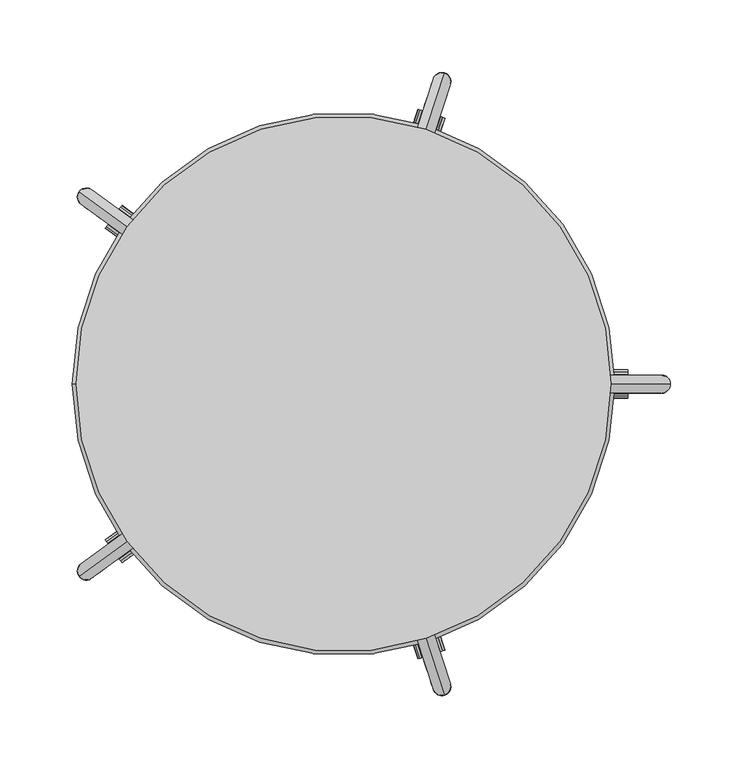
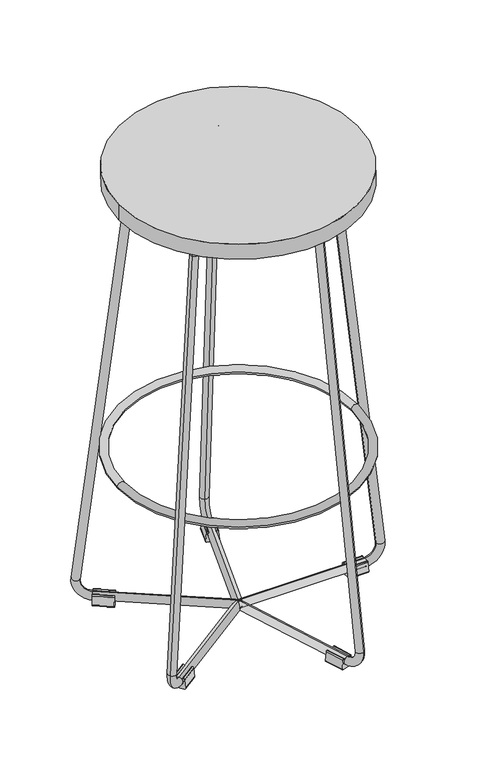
"""IFC4 building model written with IfcOpenShell, lengths in millimetres: furniture geometry, AsteriskR185 : AsteriskR185."""

from ifc_helpers import new_model, si_unit, point, frame, frame_2d, origin, origin_2d, place, context, project, spatial, polyline, circle_curve, ellipse_curve, trimmed, segment, composite_curve, outline, extrude, source, transform, mapped, element, save
from ifc_brep_helpers import plane_surface, cylinder_surface, revolved_surface, advanced_brep


def furniture_04dd6bc4(model_context):
    return source(origin(), model_context, "Body", "SolidModel", [
        extrude(outline(composite_curve([segment(polyline([(62.2017814, -106.4906141), (37.2365478, -114.6023102), (31.0562079, -95.5811799), (56.0214415, -87.4694838)]), True, "CONTINUOUS"), segment(trimmed(circle_curve(frame_2d((59.1116114, -96.9800489)), 10.0), [point((56.0214415, -87.4694838))], [point((68.6221766, -93.889879))], False, "CARTESIAN"), True, "CONTINUOUS"), segment(trimmed(circle_curve(frame_2d((59.1116114, -96.9800489)), 10.0), [point((68.6221766, -93.889879))], [point((62.2017814, -106.4906141))], False, "CARTESIAN"), True, "CONTINUOUS")], self_intersect=False), holes=[composite_curve([segment(trimmed(circle_curve(frame_2d((59.1116114, -96.9800489)), 2.5), [point((58.3390689, -94.6024077))], [point((59.8841539, -99.3576902))], True, "CARTESIAN"), True, "CONTINUOUS"), segment(trimmed(circle_curve(frame_2d((59.1116114, -96.9800489)), 2.5), [point((59.8841539, -99.3576902))], [point((58.3390689, -94.6024077))], True, "CARTESIAN"), True, "CONTINUOUS")], self_intersect=False)]), frame((0.0, 0.0, 703.0), z_axis=(0.0, 0.0, 1.0), x_axis=(1.0, 0.0, 0.0)), (0.0, 0.0, 1.0), 2.0),
        extrude(outline(composite_curve([segment(trimmed(circle_curve(frame_2d((0.0, -1.5)), 1.5), [point((0.1752619, -0.010274))], [point((1.5, -1.5))], False, "CARTESIAN"), True, "CONTINUOUS"), segment(trimmed(circle_curve(frame_2d((-0.121686, -1.5)), 1.621686), [point((1.5, -1.5))], [point((-0.7291803, -3.0036011))], False, "CARTESIAN"), True, "CONTINUOUS"), segment(trimmed(circle_curve(frame_2d((-4.1625955, -8.1661256)), 6.2), [point((-0.7291803, -3.0036011))], [point((-10.3625955, -8.1661256))], True, "CARTESIAN"), True, "CONTINUOUS"), segment(trimmed(circle_curve(frame_2d((-4.1625955, -8.1661256)), 6.2), [point((-10.3625955, -8.1661256))], [point((-0.7291803, -13.3286502))], True, "CARTESIAN"), True, "CONTINUOUS"), segment(trimmed(circle_curve(frame_2d((-0.121686, -14.8322512)), 1.621686), [point((-0.7291803, -13.3286502))], [point((1.5, -14.8322512))], False, "CARTESIAN"), True, "CONTINUOUS"), segment(trimmed(circle_curve(frame_2d((0.0, -14.8322512)), 1.5), [point((1.5, -14.8322512))], [point((0.1752619, -16.3219772))], False, "CARTESIAN"), True, "CONTINUOUS"), segment(polyline([(0.1752619, -16.3219772), (-13.8247381, -17.969036)]), True, "CONTINUOUS"), segment(trimmed(circle_curve(frame_2d((-14.0, -16.4793101)), 1.5), [point((-13.8247381, -17.969036))], [point((-15.5, -16.4793101))], False, "CARTESIAN"), True, "CONTINUOUS"), segment(polyline([(-15.5, -16.4793101), (-15.5, 0.1470588)]), True, "CONTINUOUS"), segment(trimmed(circle_curve(frame_2d((-14.0, 0.1470588)), 1.5), [point((-15.5, 0.1470588))], [point((-13.8247381, 1.6367847))], False, "CARTESIAN"), True, "CONTINUOUS"), segment(polyline([(-13.8247381, 1.6367847), (0.1752619, -0.010274)]), True, "CONTINUOUS")], self_intersect=False)), frame((68.4882864, -184.3591339, 15.5), z_axis=(-0.3090169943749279, 0.95105651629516, 0.0), x_axis=(0.0, 0.0, 1.0)), (0.0, 0.0, 1.0), 30.0),
        advanced_brep(
        [(0.0, 0.0, 692.4625955), (0.0, 0.0, 704.8625955), (37.9725027, -116.8673464, 692.4625955), (37.9725027, -116.8673464, 704.8625955), (47.1403393, -145.083046, 678.4058295), (43.3335311, -133.3668951, 676.9916093), (66.0374455, -203.242359, 36.9916093), (69.8442537, -214.9585099, 38.4058295), (0.0, 0.0, 17.5374045), (0.0, 0.0, 5.1374045), (60.6764172, -186.7428102, 5.1374045), (60.6764172, -186.7428102, 17.5374045)],
        [
            (0, 1, circle_curve(frame((0.0, 0.0, 698.6625955), z_axis=(-0.3090169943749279, 0.95105651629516, 0.0), x_axis=(0.0, 0.0, 1.0)), 6.2)),
            (1, 0, circle_curve(frame((0.0, 0.0, 698.6625955), z_axis=(-0.3090169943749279, 0.95105651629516, 0.0), x_axis=(0.0, 0.0, 1.0)), 6.2)),
            (0, 2),
            (2, 3, circle_curve(frame((37.9725027, -116.8673464, 698.6625955), z_axis=(-0.3090169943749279, 0.95105651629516, 0.0), x_axis=(0.0, 0.0, 1.0)), 6.2)),
            (3, 1),
            (3, 2, circle_curve(frame((37.9725027, -116.8673464, 698.6625955), z_axis=(-0.3090169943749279, 0.95105651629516, 0.0), x_axis=(0.0, 0.0, 1.0)), 6.2)),
            (4, 5, circle_curve(frame((45.2369352, -139.2249706, 677.6987194), z_axis=(0.03524339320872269, -0.10846801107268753, -0.9934750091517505), x_axis=(0.3070006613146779, -0.9448508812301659, 0.11405001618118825)), 6.2)),
            (5, 6),
            (6, 7, circle_curve(frame((67.9408496, -209.1004344, 37.6987194), z_axis=(-0.03524339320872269, 0.10846801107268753, 0.9934750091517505), x_axis=(0.3070006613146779, -0.9448508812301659, 0.11405001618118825)), 6.2)),
            (7, 4),
            (5, 4, circle_curve(frame((45.2369352, -139.2249706, 677.6987194), z_axis=(0.03524339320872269, -0.10846801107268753, -0.9934750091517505), x_axis=(0.3070006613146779, -0.9448508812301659, 0.11405001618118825)), 6.2)),
            (7, 6, circle_curve(frame((67.9408496, -209.1004344, 37.6987194), z_axis=(-0.03524339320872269, 0.10846801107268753, 0.9934750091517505), x_axis=(0.3070006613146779, -0.9448508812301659, 0.11405001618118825)), 6.2)),
            (8, 9, circle_curve(frame((0.0, 0.0, 11.3374045), z_axis=(-0.3090169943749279, 0.95105651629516, 0.0), x_axis=(0.0, 0.0, -1.0)), 6.2)),
            (9, 8, circle_curve(frame((0.0, 0.0, 11.3374045), z_axis=(-0.3090169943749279, 0.95105651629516, 0.0), x_axis=(0.0, 0.0, -1.0)), 6.2)),
            (10, 11, circle_curve(frame((60.6764172, -186.7428102, 11.3374045), z_axis=(-0.3090169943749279, 0.95105651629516, 0.0), x_axis=(0.0, 0.0, -1.0)), 6.2)),
            (11, 8),
            (9, 10),
            (11, 10, circle_curve(frame((60.6764172, -186.7428102, 11.3374045), z_axis=(-0.3090169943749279, 0.95105651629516, 0.0), x_axis=(0.0, 0.0, -1.0)), 6.2)),
            (4, 3, circle_curve(frame((37.9725027, -116.8673464, 675.0), z_axis=(-0.95105651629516, -0.3090169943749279, 0.0), x_axis=(0.0, 0.0, 1.0)), 29.8625955)),
            (2, 5, circle_curve(frame((37.9725027, -116.8673464, 675.0), z_axis=(0.95105651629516, 0.3090169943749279, 0.0), x_axis=(0.0, 0.0, 1.0)), 17.4625955)),
            (10, 7, circle_curve(frame((60.6764172, -186.7428102, 35.0), z_axis=(-0.95105651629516, -0.3090169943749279, 0.0), x_axis=(0.30700066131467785, -0.9448508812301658, 0.11405001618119)), 29.8625955)),
            (6, 11, circle_curve(frame((60.6764172, -186.7428102, 35.0), z_axis=(0.95105651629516, 0.3090169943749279, 0.0), x_axis=(0.30700066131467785, -0.9448508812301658, 0.11405001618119)), 17.4625955)),
        ],
        [
            plane_surface(frame((0.0, 0.0, 705.0), z_axis=(-0.3090169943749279, 0.95105651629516, 0.0), x_axis=(-0.95105651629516, -0.3090169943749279, 0.0))),
            cylinder_surface(frame((0.0, 0.0, 698.6625955), z_axis=(-0.3090169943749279, 0.95105651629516, 0.0), x_axis=(0.0, 0.0, 1.0)), 6.2),
            cylinder_surface(frame((45.2369352, -139.2249706, 677.6987194), z_axis=(-0.03524339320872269, 0.10846801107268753, 0.9934750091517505), x_axis=(0.3070006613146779, -0.9448508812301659, 0.11405001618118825)), 6.2),
            plane_surface(frame((0.0, 0.0, 5.0), z_axis=(-0.3090169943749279, 0.95105651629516, 0.0), x_axis=(-0.95105651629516, -0.3090169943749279, 0.0))),
            cylinder_surface(frame((60.6764172, -186.7428102, 11.3374045), z_axis=(0.3090169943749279, -0.95105651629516, 0.0), x_axis=(0.0, 0.0, -1.0)), 6.2),
            revolved_surface(trimmed(ellipse_curve(frame((37.9725027, -116.8673464, 698.6625955), z_axis=(-0.3090169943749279, 0.95105651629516, 0.0), x_axis=(0.0, 0.0, 1.0)), 6.2, 6.2), [point((37.9725027, -116.8673464, 692.4625955))], [point((37.9725027, -116.8673464, 704.8625955))], True, "CARTESIAN"), (37.9725027, -116.8673464, 675.0), (0.95105651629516, 0.3090169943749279, 0.0)),
            revolved_surface(trimmed(ellipse_curve(frame((37.9725027, -116.8673464, 698.6625955), z_axis=(-0.3090169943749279, 0.95105651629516, 0.0), x_axis=(0.0, 0.0, 1.0)), 6.2, 6.2), [point((37.9725027, -116.8673464, 704.8625955))], [point((37.9725027, -116.8673464, 692.4625955))], True, "CARTESIAN"), (37.9725027, -116.8673464, 675.0), (0.95105651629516, 0.3090169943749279, 0.0)),
            revolved_surface(trimmed(ellipse_curve(frame((67.9408496, -209.1004344, 37.6987194), z_axis=(-0.03524339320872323, 0.1084680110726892, 0.9934750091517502), x_axis=(0.30700066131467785, -0.9448508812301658, 0.11405001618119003)), 6.2, 6.2), [point((66.0374455, -203.242359, 36.9916093))], [point((69.8442537, -214.9585099, 38.4058295))], True, "CARTESIAN"), (60.6764172, -186.7428102, 35.0), (0.95105651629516, 0.3090169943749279, 0.0)),
            revolved_surface(trimmed(ellipse_curve(frame((67.9408496, -209.1004344, 37.6987194), z_axis=(-0.03524339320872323, 0.1084680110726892, 0.9934750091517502), x_axis=(0.30700066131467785, -0.9448508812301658, 0.11405001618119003)), 6.2, 6.2), [point((69.8442537, -214.9585099, 38.4058295))], [point((66.0374455, -203.242359, 36.9916093))], True, "CARTESIAN"), (60.6764172, -186.7428102, 35.0), (0.95105651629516, 0.3090169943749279, 0.0)),
        ],
        [
            (0, [[1, 2]]),
            (1, [[-1, 3, 4, 5]]),
            (1, [[-2, -5, 6, -3]]),
            (2, [[7, 8, 9, 10]]),
            (2, [[11, -10, 12, -8]]),
            (3, [[13, 14]]),
            (4, [[15, 16, -14, 17]]),
            (4, [[18, -17, -13, -16]]),
            (5, [[19, -4, 20, -7]]),
            (6, [[-20, -6, -19, -11]]),
            (7, [[21, -9, 22, -15]]),
            (8, [[-22, -12, -21, -18]]),
        ],
    ),
        extrude(outline(composite_curve([segment(polyline([(-82.0571849, -92.064819), (-97.4865478, -70.8281229), (-81.3062079, -59.0724179), (-65.8768451, -80.309114)]), True, "CONTINUOUS"), segment(trimmed(circle_curve(frame_2d((-73.967015, -86.1869665)), 10.0), [point((-65.8768451, -80.309114))], [point((-68.0891625, -94.2771364))], False, "CARTESIAN"), True, "CONTINUOUS"), segment(trimmed(circle_curve(frame_2d((-73.967015, -86.1869665)), 10.0), [point((-68.0891625, -94.2771364))], [point((-82.0571849, -92.064819))], False, "CARTESIAN"), True, "CONTINUOUS")], self_intersect=False), holes=[composite_curve([segment(trimmed(circle_curve(frame_2d((-73.967015, -86.1869665)), 2.5), [point((-71.9444725, -84.7175034))], [point((-75.9895575, -87.6564296))], True, "CARTESIAN"), True, "CONTINUOUS"), segment(trimmed(circle_curve(frame_2d((-73.967015, -86.1869665)), 2.5), [point((-75.9895575, -87.6564296))], [point((-71.9444725, -84.7175034))], True, "CARTESIAN"), True, "CONTINUOUS")], self_intersect=False)]), frame((0.0, 0.0, 703.0), z_axis=(0.0, 0.0, 1.0), x_axis=(1.0, 0.0, 0.0)), (0.0, 0.0, 1.0), 2.0),
        extrude(outline(composite_curve([segment(trimmed(circle_curve(frame_2d((0.0, -1.5)), 1.5), [point((0.1752619, -0.010274))], [point((1.5, -1.5))], False, "CARTESIAN"), True, "CONTINUOUS"), segment(trimmed(circle_curve(frame_2d((-0.121686, -1.5)), 1.621686), [point((1.5, -1.5))], [point((-0.7291803, -3.0036011))], False, "CARTESIAN"), True, "CONTINUOUS"), segment(trimmed(circle_curve(frame_2d((-4.1625955, -8.1661256)), 6.2), [point((-0.7291803, -3.0036011))], [point((-10.3625955, -8.1661256))], True, "CARTESIAN"), True, "CONTINUOUS"), segment(trimmed(circle_curve(frame_2d((-4.1625955, -8.1661256)), 6.2), [point((-10.3625955, -8.1661256))], [point((-0.7291803, -13.3286502))], True, "CARTESIAN"), True, "CONTINUOUS"), segment(trimmed(circle_curve(frame_2d((-0.121686, -14.8322513)), 1.621686), [point((-0.7291803, -13.3286502))], [point((1.5, -14.8322513))], False, "CARTESIAN"), True, "CONTINUOUS"), segment(trimmed(circle_curve(frame_2d((0.0, -14.8322513)), 1.5), [point((1.5, -14.8322513))], [point((0.1752619, -16.3219772))], False, "CARTESIAN"), True, "CONTINUOUS"), segment(polyline([(0.1752619, -16.3219772), (-13.8247381, -17.969036)]), True, "CONTINUOUS"), segment(trimmed(circle_curve(frame_2d((-14.0, -16.4793101)), 1.5), [point((-13.8247381, -17.969036))], [point((-15.5, -16.4793101))], False, "CARTESIAN"), True, "CONTINUOUS"), segment(polyline([(-15.5, -16.4793101), (-15.5, 0.1470588)]), True, "CONTINUOUS"), segment(trimmed(circle_curve(frame_2d((-14.0, 0.1470588)), 1.5), [point((-15.5, 0.1470588))], [point((-13.8247381, 1.6367847))], False, "CARTESIAN"), True, "CONTINUOUS"), segment(polyline([(-13.8247381, 1.6367847), (0.1752619, -0.010274)]), True, "CONTINUOUS")], self_intersect=False)), frame((-154.1719112, -122.1063365, 15.5), z_axis=(0.8090169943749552, 0.5877852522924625, 0.0), x_axis=(0.0, 0.0, 1.0)), (0.0, 0.0, 1.0), 30.0),
        advanced_brep(
        [(0.0, 0.0, 692.4625955), (0.0, 0.0, 704.8625955), (-99.4133027, -72.2279922, 692.4625955), (-99.4133027, -72.2279922, 704.8625955), (-123.4150104, -89.6662537, 678.4058295), (-113.4486571, -82.4252742, 676.9916093), (-172.888277, -125.6106858, 36.9916093), (-182.8546302, -132.8516653, 38.4058295), (0.0, 0.0, 17.5374045), (0.0, 0.0, 5.1374045), (-158.8529225, -115.4134039, 5.1374045), (-158.8529225, -115.4134039, 17.5374045)],
        [
            (0, 1, circle_curve(frame((0.0, 0.0, 698.6625955), z_axis=(0.8090169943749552, 0.5877852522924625, 0.0), x_axis=(0.0, 0.0, 1.0)), 6.2)),
            (1, 0, circle_curve(frame((0.0, 0.0, 698.6625955), z_axis=(0.8090169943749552, 0.5877852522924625, 0.0), x_axis=(0.0, 0.0, 1.0)), 6.2)),
            (0, 2),
            (2, 3, circle_curve(frame((-99.4133027, -72.2279922, 698.6625955), z_axis=(0.8090169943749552, 0.5877852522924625, 0.0), x_axis=(0.0, 0.0, 1.0)), 6.2)),
            (3, 1),
            (3, 2, circle_curve(frame((-99.4133027, -72.2279922, 698.6625955), z_axis=(0.8090169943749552, 0.5877852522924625, 0.0), x_axis=(0.0, 0.0, 1.0)), 6.2)),
            (4, 5, circle_curve(frame((-118.4318338, -86.0457639, 677.6987194), z_axis=(-0.09226840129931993, -0.06703691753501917, -0.9934750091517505), x_axis=(-0.8037381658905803, -0.5839499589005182, 0.11405001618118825)), 6.2)),
            (5, 6),
            (6, 7, circle_curve(frame((-177.8714536, -129.2311755, 37.6987194), z_axis=(0.09226840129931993, 0.06703691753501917, 0.9934750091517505), x_axis=(-0.8037381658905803, -0.5839499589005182, 0.11405001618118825)), 6.2)),
            (7, 4),
            (5, 4, circle_curve(frame((-118.4318338, -86.0457639, 677.6987194), z_axis=(-0.09226840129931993, -0.06703691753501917, -0.9934750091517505), x_axis=(-0.8037381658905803, -0.5839499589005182, 0.11405001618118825)), 6.2)),
            (7, 6, circle_curve(frame((-177.8714536, -129.2311755, 37.6987194), z_axis=(0.09226840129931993, 0.06703691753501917, 0.9934750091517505), x_axis=(-0.8037381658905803, -0.5839499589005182, 0.11405001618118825)), 6.2)),
            (8, 9, circle_curve(frame((0.0, 0.0, 11.3374045), z_axis=(0.8090169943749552, 0.5877852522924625, 0.0), x_axis=(0.0, 0.0, -1.0)), 6.2)),
            (9, 8, circle_curve(frame((0.0, 0.0, 11.3374045), z_axis=(0.8090169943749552, 0.5877852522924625, 0.0), x_axis=(0.0, 0.0, -1.0)), 6.2)),
            (10, 11, circle_curve(frame((-158.8529225, -115.4134039, 11.3374045), z_axis=(0.8090169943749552, 0.5877852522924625, 0.0), x_axis=(0.0, 0.0, -1.0)), 6.2)),
            (11, 8),
            (9, 10),
            (11, 10, circle_curve(frame((-158.8529225, -115.4134039, 11.3374045), z_axis=(0.8090169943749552, 0.5877852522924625, 0.0), x_axis=(0.0, 0.0, -1.0)), 6.2)),
            (4, 3, circle_curve(frame((-99.4133027, -72.2279922, 675.0), z_axis=(-0.5877852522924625, 0.8090169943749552, 0.0), x_axis=(0.0, 0.0, 1.0)), 29.8625955)),
            (2, 5, circle_curve(frame((-99.4133027, -72.2279922, 675.0), z_axis=(0.5877852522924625, -0.8090169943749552, 0.0), x_axis=(0.0, 0.0, 1.0)), 17.4625955)),
            (10, 7, circle_curve(frame((-158.8529225, -115.4134039, 35.0), z_axis=(-0.5877852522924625, 0.8090169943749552, 0.0), x_axis=(-0.8037381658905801, -0.583949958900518, 0.11405001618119)), 29.8625955)),
            (6, 11, circle_curve(frame((-158.8529225, -115.4134039, 35.0), z_axis=(0.5877852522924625, -0.8090169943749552, 0.0), x_axis=(-0.8037381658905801, -0.583949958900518, 0.11405001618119)), 17.4625955)),
        ],
        [
            plane_surface(frame((0.0, 0.0, 705.0), z_axis=(0.8090169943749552, 0.5877852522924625, 0.0), x_axis=(-0.5877852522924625, 0.8090169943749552, 0.0))),
            cylinder_surface(frame((0.0, 0.0, 698.6625955), z_axis=(0.8090169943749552, 0.5877852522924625, 0.0), x_axis=(0.0, 0.0, 1.0)), 6.2),
            cylinder_surface(frame((-118.4318338, -86.0457639, 677.6987194), z_axis=(0.09226840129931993, 0.06703691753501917, 0.9934750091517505), x_axis=(-0.8037381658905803, -0.5839499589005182, 0.11405001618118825)), 6.2),
            plane_surface(frame((0.0, 0.0, 5.0), z_axis=(0.8090169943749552, 0.5877852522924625, 0.0), x_axis=(-0.5877852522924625, 0.8090169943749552, 0.0))),
            cylinder_surface(frame((-158.8529225, -115.4134039, 11.3374045), z_axis=(-0.8090169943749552, -0.5877852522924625, 0.0), x_axis=(0.0, 0.0, -1.0)), 6.2),
            revolved_surface(trimmed(ellipse_curve(frame((-99.4133027, -72.2279922, 698.6625955), z_axis=(0.8090169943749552, 0.5877852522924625, 0.0), x_axis=(0.0, 0.0, 1.0)), 6.2, 6.2), [point((-99.4133027, -72.2279922, 692.4625955))], [point((-99.4133027, -72.2279922, 704.8625955))], True, "CARTESIAN"), (-99.4133027, -72.2279922, 675.0), (0.5877852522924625, -0.8090169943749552, 0.0)),
            revolved_surface(trimmed(ellipse_curve(frame((-99.4133027, -72.2279922, 698.6625955), z_axis=(0.8090169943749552, 0.5877852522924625, 0.0), x_axis=(0.0, 0.0, 1.0)), 6.2, 6.2), [point((-99.4133027, -72.2279922, 704.8625955))], [point((-99.4133027, -72.2279922, 692.4625955))], True, "CARTESIAN"), (-99.4133027, -72.2279922, 675.0), (0.5877852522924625, -0.8090169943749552, 0.0)),
            revolved_surface(trimmed(ellipse_curve(frame((-177.8714536, -129.2311755, 37.6987194), z_axis=(0.09226840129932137, 0.06703691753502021, 0.9934750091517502), x_axis=(-0.8037381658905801, -0.583949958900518, 0.11405001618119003)), 6.2, 6.2), [point((-172.888277, -125.6106858, 36.9916093))], [point((-182.8546302, -132.8516653, 38.4058295))], True, "CARTESIAN"), (-158.8529225, -115.4134039, 35.0), (0.5877852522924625, -0.8090169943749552, 0.0)),
            revolved_surface(trimmed(ellipse_curve(frame((-177.8714536, -129.2311755, 37.6987194), z_axis=(0.09226840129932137, 0.06703691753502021, 0.9934750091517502), x_axis=(-0.8037381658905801, -0.583949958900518, 0.11405001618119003)), 6.2, 6.2), [point((-182.8546302, -132.8516653, 38.4058295))], [point((-172.888277, -125.6106858, 36.9916093))], True, "CARTESIAN"), (-158.8529225, -115.4134039, 35.0), (0.5877852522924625, -0.8090169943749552, 0.0)),
        ],
        [
            (0, [[1, 2]]),
            (1, [[-1, 3, 4, 5]]),
            (1, [[-2, -5, 6, -3]]),
            (2, [[7, 8, 9, 10]]),
            (2, [[11, -10, 12, -8]]),
            (3, [[13, 14]]),
            (4, [[15, 16, -14, 17]]),
            (4, [[18, -17, -13, -16]]),
            (5, [[19, -4, 20, -7]]),
            (6, [[-20, -6, -19, -11]]),
            (7, [[21, -9, 22, -15]]),
            (8, [[-22, -12, -21, -18]]),
        ],
    ),
        extrude(outline(composite_curve([segment(polyline([(-112.9159107, 49.5914268), (-97.4865478, 70.8281229), (-81.3062079, 59.0724179), (-96.7355708, 37.8357218)]), True, "CONTINUOUS"), segment(trimmed(circle_curve(frame_2d((-104.8257408, 43.7135743)), 10.0), [point((-96.7355708, 37.8357218))], [point((-110.7035933, 35.6234043))], False, "CARTESIAN"), True, "CONTINUOUS"), segment(trimmed(circle_curve(frame_2d((-104.8257408, 43.7135743)), 10.0), [point((-110.7035933, 35.6234043))], [point((-112.9159107, 49.5914268))], False, "CARTESIAN"), True, "CONTINUOUS")], self_intersect=False), holes=[composite_curve([segment(trimmed(circle_curve(frame_2d((-104.8257408, 43.7135743)), 2.5), [point((-102.8031983, 42.2441111))], [point((-106.8482832, 45.1830374))], True, "CARTESIAN"), True, "CONTINUOUS"), segment(trimmed(circle_curve(frame_2d((-104.8257408, 43.7135743)), 2.5), [point((-106.8482832, 45.1830374))], [point((-102.8031983, 42.2441111))], True, "CARTESIAN"), True, "CONTINUOUS")], self_intersect=False)]), frame((0.0, 0.0, 703.0), z_axis=(0.0, 0.0, 1.0), x_axis=(1.0, 0.0, 0.0)), (0.0, 0.0, 1.0), 2.0),
        extrude(outline(composite_curve([segment(polyline([(-0.1752619, -0.0102741), (13.8247381, 1.6367847)]), True, "CONTINUOUS"), segment(trimmed(circle_curve(frame_2d((14.0, 0.1470588)), 1.5), [point((13.8247381, 1.6367847))], [point((15.5, 0.1470588))], False, "CARTESIAN"), True, "CONTINUOUS"), segment(polyline([(15.5, 0.1470588), (15.5, -16.4793101)]), True, "CONTINUOUS"), segment(trimmed(circle_curve(frame_2d((14.0, -16.4793101)), 1.5), [point((15.5, -16.4793101))], [point((13.8247381, -17.969036))], False, "CARTESIAN"), True, "CONTINUOUS"), segment(polyline([(13.8247381, -17.969036), (-0.1752619, -16.3219772)]), True, "CONTINUOUS"), segment(trimmed(circle_curve(frame_2d((0.0, -14.8322513)), 1.5), [point((-0.1752619, -16.3219772))], [point((-1.5, -14.8322513))], False, "CARTESIAN"), True, "CONTINUOUS"), segment(trimmed(circle_curve(frame_2d((0.121686, -14.8322513)), 1.621686), [point((-1.5, -14.8322513))], [point((0.7291803, -13.3286502))], False, "CARTESIAN"), True, "CONTINUOUS"), segment(trimmed(circle_curve(frame_2d((4.1625955, -8.1661256)), 6.2), [point((0.7291803, -13.3286502))], [point((10.3625955, -8.1661256))], True, "CARTESIAN"), True, "CONTINUOUS"), segment(trimmed(circle_curve(frame_2d((4.1625955, -8.1661256)), 6.2), [point((10.3625955, -8.1661256))], [point((0.7291803, -3.0036011))], True, "CARTESIAN"), True, "CONTINUOUS"), segment(trimmed(circle_curve(frame_2d((0.121686, -1.5)), 1.621686), [point((0.7291803, -3.0036011))], [point((-1.5, -1.5))], False, "CARTESIAN"), True, "CONTINUOUS"), segment(trimmed(circle_curve(frame_2d((0.0, -1.5)), 1.5), [point((-1.5, -1.5))], [point((-0.1752619, -0.0102741))], False, "CARTESIAN"), True, "CONTINUOUS")], self_intersect=False)), frame((-139.5012578, 91.2597101, 15.5), z_axis=(-0.8090169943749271, 0.5877852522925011, 0.0), x_axis=(0.0, 0.0, -1.0)), (0.0, 0.0, 1.0), 30.0),
        advanced_brep(
        [(0.0, 0.0, 692.4625955), (0.0, 0.0, 704.8625955), (-99.4133027, 72.2279922, 692.4625955), (-99.4133027, 72.2279922, 704.8625955), (-123.4150104, 89.6662536, 678.4058295), (-113.4486571, 82.4252742, 676.9916093), (-172.888277, 125.6106858, 36.9916093), (-182.8546302, 132.8516653, 38.4058295), (0.0, 0.0, 17.5374045), (0.0, 0.0, 5.1374045), (-158.8529225, 115.4134039, 5.1374045), (-158.8529225, 115.4134039, 17.5374045)],
        [
            (0, 1, circle_curve(frame((0.0, 0.0, 698.6625955), z_axis=(0.8090169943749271, -0.5877852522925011, 0.0), x_axis=(0.0, 0.0, 1.0)), 6.2)),
            (1, 0, circle_curve(frame((0.0, 0.0, 698.6625955), z_axis=(0.8090169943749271, -0.5877852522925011, 0.0), x_axis=(0.0, 0.0, 1.0)), 6.2)),
            (0, 2),
            (2, 3, circle_curve(frame((-99.4133027, 72.2279922, 698.6625955), z_axis=(0.8090169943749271, -0.5877852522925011, 0.0), x_axis=(0.0, 0.0, 1.0)), 6.2)),
            (3, 1),
            (3, 2, circle_curve(frame((-99.4133027, 72.2279922, 698.6625955), z_axis=(0.8090169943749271, -0.5877852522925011, 0.0), x_axis=(0.0, 0.0, 1.0)), 6.2)),
            (4, 5, circle_curve(frame((-118.4318338, 86.0457639, 677.6987194), z_axis=(-0.09226840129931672, 0.06703691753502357, -0.9934750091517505), x_axis=(-0.8037381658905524, 0.5839499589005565, 0.11405001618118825)), 6.2)),
            (5, 6),
            (6, 7, circle_curve(frame((-177.8714536, 129.2311755, 37.6987194), z_axis=(0.09226840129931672, -0.06703691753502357, 0.9934750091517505), x_axis=(-0.8037381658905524, 0.5839499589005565, 0.11405001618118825)), 6.2)),
            (7, 4),
            (5, 4, circle_curve(frame((-118.4318338, 86.0457639, 677.6987194), z_axis=(-0.09226840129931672, 0.06703691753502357, -0.9934750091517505), x_axis=(-0.8037381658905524, 0.5839499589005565, 0.11405001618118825)), 6.2)),
            (7, 6, circle_curve(frame((-177.8714536, 129.2311755, 37.6987194), z_axis=(0.09226840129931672, -0.06703691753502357, 0.9934750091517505), x_axis=(-0.8037381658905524, 0.5839499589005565, 0.11405001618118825)), 6.2)),
            (8, 9, circle_curve(frame((0.0, 0.0, 11.3374045), z_axis=(0.8090169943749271, -0.5877852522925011, 0.0), x_axis=(0.0, 0.0, -1.0)), 6.2)),
            (9, 8, circle_curve(frame((0.0, 0.0, 11.3374045), z_axis=(0.8090169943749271, -0.5877852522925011, 0.0), x_axis=(0.0, 0.0, -1.0)), 6.2)),
            (10, 11, circle_curve(frame((-158.8529225, 115.4134039, 11.3374045), z_axis=(0.8090169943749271, -0.5877852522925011, 0.0), x_axis=(0.0, 0.0, -1.0)), 6.2)),
            (11, 8),
            (9, 10),
            (11, 10, circle_curve(frame((-158.8529225, 115.4134039, 11.3374045), z_axis=(0.8090169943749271, -0.5877852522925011, 0.0), x_axis=(0.0, 0.0, -1.0)), 6.2)),
            (4, 3, circle_curve(frame((-99.4133027, 72.2279922, 675.0), z_axis=(0.5877852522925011, 0.8090169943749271, 0.0), x_axis=(0.0, 0.0, 1.0)), 29.8625955)),
            (2, 5, circle_curve(frame((-99.4133027, 72.2279922, 675.0), z_axis=(-0.5877852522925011, -0.8090169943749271, 0.0), x_axis=(0.0, 0.0, 1.0)), 17.4625955)),
            (10, 7, circle_curve(frame((-158.8529225, 115.4134039, 35.0), z_axis=(0.5877852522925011, 0.8090169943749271, 0.0), x_axis=(-0.8037381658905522, 0.5839499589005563, 0.11405001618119)), 29.8625955)),
            (6, 11, circle_curve(frame((-158.8529225, 115.4134039, 35.0), z_axis=(-0.5877852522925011, -0.8090169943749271, 0.0), x_axis=(-0.8037381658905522, 0.5839499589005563, 0.11405001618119)), 17.4625955)),
        ],
        [
            plane_surface(frame((0.0, 0.0, 705.0), z_axis=(0.8090169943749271, -0.5877852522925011, 0.0), x_axis=(0.5877852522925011, 0.8090169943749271, 0.0))),
            cylinder_surface(frame((0.0, 0.0, 698.6625955), z_axis=(0.8090169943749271, -0.5877852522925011, 0.0), x_axis=(0.0, 0.0, 1.0)), 6.2),
            cylinder_surface(frame((-118.4318338, 86.0457639, 677.6987194), z_axis=(0.09226840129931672, -0.06703691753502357, 0.9934750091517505), x_axis=(-0.8037381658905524, 0.5839499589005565, 0.11405001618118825)), 6.2),
            plane_surface(frame((0.0, 0.0, 5.0), z_axis=(0.8090169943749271, -0.5877852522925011, 0.0), x_axis=(0.5877852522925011, 0.8090169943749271, 0.0))),
            cylinder_surface(frame((-158.8529225, 115.4134039, 11.3374045), z_axis=(-0.8090169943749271, 0.5877852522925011, 0.0), x_axis=(0.0, 0.0, -1.0)), 6.2),
            revolved_surface(trimmed(ellipse_curve(frame((-99.4133027, 72.2279922, 698.6625955), z_axis=(0.8090169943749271, -0.5877852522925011, 0.0), x_axis=(0.0, 0.0, 1.0)), 6.2, 6.2), [point((-99.4133027, 72.2279922, 692.4625955))], [point((-99.4133027, 72.2279922, 704.8625955))], True, "CARTESIAN"), (-99.4133027, 72.2279922, 675.0), (-0.5877852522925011, -0.8090169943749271, 0.0)),
            revolved_surface(trimmed(ellipse_curve(frame((-99.4133027, 72.2279922, 698.6625955), z_axis=(0.8090169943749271, -0.5877852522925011, 0.0), x_axis=(0.0, 0.0, 1.0)), 6.2, 6.2), [point((-99.4133027, 72.2279922, 704.8625955))], [point((-99.4133027, 72.2279922, 692.4625955))], True, "CARTESIAN"), (-99.4133027, 72.2279922, 675.0), (-0.5877852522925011, -0.8090169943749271, 0.0)),
            revolved_surface(trimmed(ellipse_curve(frame((-177.8714536, 129.2311755, 37.6987194), z_axis=(0.09226840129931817, -0.06703691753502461, 0.9934750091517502), x_axis=(-0.8037381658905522, 0.5839499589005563, 0.11405001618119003)), 6.2, 6.2), [point((-172.888277, 125.6106858, 36.9916093))], [point((-182.8546302, 132.8516653, 38.4058295))], True, "CARTESIAN"), (-158.8529225, 115.4134039, 35.0), (-0.5877852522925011, -0.8090169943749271, 0.0)),
            revolved_surface(trimmed(ellipse_curve(frame((-177.8714536, 129.2311755, 37.6987194), z_axis=(0.09226840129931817, -0.06703691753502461, 0.9934750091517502), x_axis=(-0.8037381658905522, 0.5839499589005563, 0.11405001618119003)), 6.2, 6.2), [point((-182.8546302, 132.8516653, 38.4058295))], [point((-172.888277, 125.6106858, 36.9916093))], True, "CARTESIAN"), (-158.8529225, 115.4134039, 35.0), (-0.5877852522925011, -0.8090169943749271, 0.0)),
        ],
        [
            (0, [[1, 2]]),
            (1, [[-1, 3, 4, 5]]),
            (1, [[-2, -5, 6, -3]]),
            (2, [[7, 8, 9, 10]]),
            (2, [[11, -10, 12, -8]]),
            (3, [[13, 14]]),
            (4, [[15, 16, -14, 17]]),
            (4, [[18, -17, -13, -16]]),
            (5, [[19, -4, 20, -7]]),
            (6, [[-20, -6, -19, -11]]),
            (7, [[21, -9, 22, -15]]),
            (8, [[-22, -12, -21, -18]]),
        ],
    ),
        extrude(outline(composite_curve([segment(polyline([(12.2713143, 122.7140063), (37.2365478, 114.6023102), (31.0562079, 95.5811799), (6.0909744, 103.692876)]), True, "CONTINUOUS"), segment(trimmed(circle_curve(frame_2d((9.1811443, 113.2034412)), 10.0), [point((6.0909744, 103.692876))], [point((-0.3294208, 116.2936111))], False, "CARTESIAN"), True, "CONTINUOUS"), segment(trimmed(circle_curve(frame_2d((9.1811443, 113.2034412)), 10.0), [point((-0.3294208, 116.2936111))], [point((12.2713143, 122.7140063))], False, "CARTESIAN"), True, "CONTINUOUS")], self_intersect=False), holes=[composite_curve([segment(trimmed(circle_curve(frame_2d((9.1811443, 113.2034412)), 2.5), [point((8.4086018, 110.8257999))], [point((9.9536868, 115.5810824))], True, "CARTESIAN"), True, "CONTINUOUS"), segment(trimmed(circle_curve(frame_2d((9.1811443, 113.2034412)), 2.5), [point((9.9536868, 115.5810824))], [point((8.4086018, 110.8257999))], True, "CARTESIAN"), True, "CONTINUOUS")], self_intersect=False)]), frame((0.0, 0.0, 703.0), z_axis=(0.0, 0.0, 1.0), x_axis=(1.0, 0.0, 0.0)), (0.0, 0.0, 1.0), 2.0),
        extrude(outline(composite_curve([segment(polyline([(-0.1752619, -0.0102741), (13.8247381, 1.6367847)]), True, "CONTINUOUS"), segment(trimmed(circle_curve(frame_2d((14.0, 0.1470588)), 1.5), [point((13.8247381, 1.6367847))], [point((15.5, 0.1470588))], False, "CARTESIAN"), True, "CONTINUOUS"), segment(polyline([(15.5, 0.1470588), (15.5, -16.4793101)]), True, "CONTINUOUS"), segment(trimmed(circle_curve(frame_2d((14.0, -16.4793101)), 1.5), [point((15.5, -16.4793101))], [point((13.8247381, -17.9690359))], False, "CARTESIAN"), True, "CONTINUOUS"), segment(polyline([(13.8247381, -17.9690359), (-0.1752619, -16.3219771)]), True, "CONTINUOUS"), segment(trimmed(circle_curve(frame_2d((0.0, -14.8322512)), 1.5), [point((-0.1752619, -16.3219771))], [point((-1.5, -14.8322512))], False, "CARTESIAN"), True, "CONTINUOUS"), segment(trimmed(circle_curve(frame_2d((0.121686, -14.8322512)), 1.621686), [point((-1.5, -14.8322512))], [point((0.7291803, -13.3286502))], False, "CARTESIAN"), True, "CONTINUOUS"), segment(trimmed(circle_curve(frame_2d((4.1625955, -8.1661256)), 6.2), [point((0.7291803, -13.3286502))], [point((10.3625955, -8.1661256))], True, "CARTESIAN"), True, "CONTINUOUS"), segment(trimmed(circle_curve(frame_2d((4.1625955, -8.1661256)), 6.2), [point((10.3625955, -8.1661256))], [point((0.7291803, -3.003601))], True, "CARTESIAN"), True, "CONTINUOUS"), segment(trimmed(circle_curve(frame_2d((0.121686, -1.4999999)), 1.621686), [point((0.7291803, -3.003601))], [point((-1.5, -1.4999999))], False, "CARTESIAN"), True, "CONTINUOUS"), segment(trimmed(circle_curve(frame_2d((0.0, -1.4999999)), 1.5), [point((-1.5, -1.4999999))], [point((-0.1752619, -0.0102741))], False, "CARTESIAN"), True, "CONTINUOUS")], self_intersect=False)), frame((43.6848826, 160.8743816, 15.5), z_axis=(0.30901699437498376, 0.9510565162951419, 0.0), x_axis=(0.0, 0.0, -1.0)), (0.0, 0.0, 1.0), 30.0),
        advanced_brep(
        [(0.0, 0.0, 692.4625955), (0.0, 0.0, 704.8625955), (37.9725027, 116.8673464, 692.4625955), (37.9725027, 116.8673464, 704.8625955), (47.1403393, 145.083046, 678.4058295), (43.3335311, 133.3668951, 676.9916093), (66.0374455, 203.242359, 36.9916093), (69.8442537, 214.9585099, 38.4058295), (0.0, 0.0, 17.5374045), (0.0, 0.0, 5.1374045), (60.6764172, 186.7428102, 5.1374045), (60.6764172, 186.7428102, 17.5374045)],
        [
            (0, 1, circle_curve(frame((0.0, 0.0, 698.6625955), z_axis=(-0.30901699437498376, -0.9510565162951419, 0.0), x_axis=(0.0, 0.0, 1.0)), 6.2)),
            (1, 0, circle_curve(frame((0.0, 0.0, 698.6625955), z_axis=(-0.30901699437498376, -0.9510565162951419, 0.0), x_axis=(0.0, 0.0, 1.0)), 6.2)),
            (0, 2),
            (2, 3, circle_curve(frame((37.9725027, 116.8673464, 698.6625955), z_axis=(-0.30901699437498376, -0.9510565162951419, 0.0), x_axis=(0.0, 0.0, 1.0)), 6.2)),
            (3, 1),
            (3, 2, circle_curve(frame((37.9725027, 116.8673464, 698.6625955), z_axis=(-0.30901699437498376, -0.9510565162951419, 0.0), x_axis=(0.0, 0.0, 1.0)), 6.2)),
            (4, 5, circle_curve(frame((45.2369352, 139.2249706, 677.6987194), z_axis=(0.03524339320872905, 0.10846801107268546, -0.9934750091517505), x_axis=(0.3070006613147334, 0.944850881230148, 0.11405001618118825)), 6.2)),
            (5, 6),
            (6, 7, circle_curve(frame((67.9408496, 209.1004344, 37.6987194), z_axis=(-0.03524339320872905, -0.10846801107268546, 0.9934750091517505), x_axis=(0.3070006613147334, 0.944850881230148, 0.11405001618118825)), 6.2)),
            (7, 4),
            (5, 4, circle_curve(frame((45.2369352, 139.2249706, 677.6987194), z_axis=(0.03524339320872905, 0.10846801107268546, -0.9934750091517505), x_axis=(0.3070006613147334, 0.944850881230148, 0.11405001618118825)), 6.2)),
            (7, 6, circle_curve(frame((67.9408496, 209.1004344, 37.6987194), z_axis=(-0.03524339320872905, -0.10846801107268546, 0.9934750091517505), x_axis=(0.3070006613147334, 0.944850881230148, 0.11405001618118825)), 6.2)),
            (8, 9, circle_curve(frame((0.0, 0.0, 11.3374045), z_axis=(-0.30901699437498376, -0.9510565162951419, 0.0), x_axis=(0.0, 0.0, -1.0)), 6.2)),
            (9, 8, circle_curve(frame((0.0, 0.0, 11.3374045), z_axis=(-0.30901699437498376, -0.9510565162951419, 0.0), x_axis=(0.0, 0.0, -1.0)), 6.2)),
            (10, 11, circle_curve(frame((60.6764172, 186.7428102, 11.3374045), z_axis=(-0.30901699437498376, -0.9510565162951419, 0.0), x_axis=(0.0, 0.0, -1.0)), 6.2)),
            (11, 8),
            (9, 10),
            (11, 10, circle_curve(frame((60.6764172, 186.7428102, 11.3374045), z_axis=(-0.30901699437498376, -0.9510565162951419, 0.0), x_axis=(0.0, 0.0, -1.0)), 6.2)),
            (4, 3, circle_curve(frame((37.9725027, 116.8673464, 675.0), z_axis=(0.9510565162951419, -0.30901699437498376, 0.0), x_axis=(0.0, 0.0, 1.0)), 29.8625955)),
            (2, 5, circle_curve(frame((37.9725027, 116.8673464, 675.0), z_axis=(-0.9510565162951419, 0.30901699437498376, 0.0), x_axis=(0.0, 0.0, 1.0)), 17.4625955)),
            (10, 7, circle_curve(frame((60.6764172, 186.7428102, 35.0), z_axis=(0.9510565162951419, -0.30901699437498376, 0.0), x_axis=(0.30700066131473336, 0.9448508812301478, 0.11405001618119)), 29.8625955)),
            (6, 11, circle_curve(frame((60.6764172, 186.7428102, 35.0), z_axis=(-0.9510565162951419, 0.30901699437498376, 0.0), x_axis=(0.30700066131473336, 0.9448508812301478, 0.11405001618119)), 17.4625955)),
        ],
        [
            plane_surface(frame((0.0, 0.0, 705.0), z_axis=(-0.30901699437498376, -0.9510565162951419, 0.0), x_axis=(0.9510565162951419, -0.30901699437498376, 0.0))),
            cylinder_surface(frame((0.0, 0.0, 698.6625955), z_axis=(-0.30901699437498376, -0.9510565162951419, 0.0), x_axis=(0.0, 0.0, 1.0)), 6.2),
            cylinder_surface(frame((45.2369352, 139.2249706, 677.6987194), z_axis=(-0.03524339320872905, -0.10846801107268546, 0.9934750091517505), x_axis=(0.3070006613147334, 0.944850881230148, 0.11405001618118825)), 6.2),
            plane_surface(frame((0.0, 0.0, 5.0), z_axis=(-0.30901699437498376, -0.9510565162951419, 0.0), x_axis=(0.9510565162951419, -0.30901699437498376, 0.0))),
            cylinder_surface(frame((60.6764172, 186.7428102, 11.3374045), z_axis=(0.30901699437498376, 0.9510565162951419, 0.0), x_axis=(0.0, 0.0, -1.0)), 6.2),
            revolved_surface(trimmed(ellipse_curve(frame((37.9725027, 116.8673464, 698.6625955), z_axis=(-0.30901699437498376, -0.9510565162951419, 0.0), x_axis=(0.0, 0.0, 1.0)), 6.2, 6.2), [point((37.9725027, 116.8673464, 692.4625955))], [point((37.9725027, 116.8673464, 704.8625955))], True, "CARTESIAN"), (37.9725027, 116.8673464, 675.0), (-0.9510565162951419, 0.30901699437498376, 0.0)),
            revolved_surface(trimmed(ellipse_curve(frame((37.9725027, 116.8673464, 698.6625955), z_axis=(-0.30901699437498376, -0.9510565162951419, 0.0), x_axis=(0.0, 0.0, 1.0)), 6.2, 6.2), [point((37.9725027, 116.8673464, 704.8625955))], [point((37.9725027, 116.8673464, 692.4625955))], True, "CARTESIAN"), (37.9725027, 116.8673464, 675.0), (-0.9510565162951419, 0.30901699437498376, 0.0)),
            revolved_surface(trimmed(ellipse_curve(frame((67.9408496, 209.1004344, 37.6987194), z_axis=(-0.0352433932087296, -0.10846801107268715, 0.9934750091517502), x_axis=(0.30700066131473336, 0.9448508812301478, 0.11405001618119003)), 6.2, 6.2), [point((66.0374455, 203.242359, 36.9916093))], [point((69.8442537, 214.9585099, 38.4058295))], True, "CARTESIAN"), (60.6764172, 186.7428102, 35.0), (-0.9510565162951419, 0.30901699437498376, 0.0)),
            revolved_surface(trimmed(ellipse_curve(frame((67.9408496, 209.1004344, 37.6987194), z_axis=(-0.0352433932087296, -0.10846801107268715, 0.9934750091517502), x_axis=(0.30700066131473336, 0.9448508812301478, 0.11405001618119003)), 6.2, 6.2), [point((69.8442537, 214.9585099, 38.4058295))], [point((66.0374455, 203.242359, 36.9916093))], True, "CARTESIAN"), (60.6764172, 186.7428102, 35.0), (-0.9510565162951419, 0.30901699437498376, 0.0)),
        ],
        [
            (0, [[1, 2]]),
            (1, [[-1, 3, 4, 5]]),
            (1, [[-2, -5, 6, -3]]),
            (2, [[7, 8, 9, 10]]),
            (2, [[11, -10, 12, -8]]),
            (3, [[13, 14]]),
            (4, [[15, 16, -14, 17]]),
            (4, [[18, -17, -13, -16]]),
            (5, [[19, -4, 20, -7]]),
            (6, [[-20, -6, -19, -11]]),
            (7, [[21, -9, 22, -15]]),
            (8, [[-22, -12, -21, -18]]),
        ],
    ),
        extrude(outline(composite_curve([segment(polyline([(120.5, 26.25), (120.5, 0.0), (100.5, 0.0), (100.5, 26.25)]), True, "CONTINUOUS"), segment(trimmed(circle_curve(frame_2d((110.5, 26.25)), 10.0), [point((100.5, 26.25))], [point((110.5, 36.25))], False, "CARTESIAN"), True, "CONTINUOUS"), segment(trimmed(circle_curve(frame_2d((110.5, 26.25)), 10.0), [point((110.5, 36.25))], [point((120.5, 26.25))], False, "CARTESIAN"), True, "CONTINUOUS")], self_intersect=False), holes=[composite_curve([segment(trimmed(circle_curve(frame_2d((110.5, 26.25)), 2.5), [point((108.0, 26.25))], [point((113.0, 26.25))], True, "CARTESIAN"), True, "CONTINUOUS"), segment(trimmed(circle_curve(frame_2d((110.5, 26.25)), 2.5), [point((113.0, 26.25))], [point((108.0, 26.25))], True, "CARTESIAN"), True, "CONTINUOUS")], self_intersect=False)]), frame((0.0, 0.0, 703.0), z_axis=(0.0, 0.0, 1.0), x_axis=(1.0, 0.0, 0.0)), (0.0, 0.0, 1.0), 2.0),
        extrude(outline(composite_curve([segment(polyline([(8.1558515, 15.6752619), (9.8029104, 1.6752619)]), True, "CONTINUOUS"), segment(trimmed(circle_curve(frame_2d((8.3131845, 1.5)), 1.5), [point((9.8029104, 1.6752619))], [point((8.3131845, 0.0))], False, "CARTESIAN"), True, "CONTINUOUS"), segment(polyline([(8.3131845, 0.0), (-8.3131845, 0.0)]), True, "CONTINUOUS"), segment(trimmed(circle_curve(frame_2d((-8.3131845, 1.5)), 1.5), [point((-8.3131845, 0.0))], [point((-9.8029104, 1.6752619))], False, "CARTESIAN"), True, "CONTINUOUS"), segment(polyline([(-9.8029104, 1.6752619), (-8.1558515, 15.6752619)]), True, "CONTINUOUS"), segment(trimmed(circle_curve(frame_2d((-6.6661256, 15.5)), 1.5), [point((-8.1558515, 15.6752619))], [point((-6.6661256, 17.0))], False, "CARTESIAN"), True, "CONTINUOUS"), segment(trimmed(circle_curve(frame_2d((-6.6661256, 15.378314)), 1.621686), [point((-6.6661256, 17.0))], [point((-5.1625246, 14.7708197))], False, "CARTESIAN"), True, "CONTINUOUS"), segment(trimmed(circle_curve(frame_2d((0.0, 11.3374045)), 6.2), [point((-5.1625246, 14.7708197))], [point((0.0, 5.1374045))], True, "CARTESIAN"), True, "CONTINUOUS"), segment(trimmed(circle_curve(frame_2d((0.0, 11.3374045)), 6.2), [point((0.0, 5.1374045))], [point((5.1625246, 14.7708197))], True, "CARTESIAN"), True, "CONTINUOUS"), segment(trimmed(circle_curve(frame_2d((6.6661256, 15.378314)), 1.621686), [point((5.1625246, 14.7708197))], [point((6.6661256, 17.0))], False, "CARTESIAN"), True, "CONTINUOUS"), segment(trimmed(circle_curve(frame_2d((6.6661256, 15.5)), 1.5), [point((6.6661256, 17.0))], [point((8.1558515, 15.6752619))], False, "CARTESIAN"), True, "CONTINUOUS")], self_intersect=False)), frame((166.5, 0.0, 0.0), z_axis=(1.0, 0.0, 0.0), x_axis=(0.0, 1.0, 0.0)), (0.0, 0.0, 1.0), 30.0),
        advanced_brep(
        [(0.0, 0.0, 692.4625955), (0.0, 0.0, 704.8625955), (122.8815999, 0.0, 692.4625955), (122.8815999, 0.0, 704.8625955), (152.5493423, 0.0, 678.4058295), (140.2302522, 0.0, 676.9916093), (213.7016628, 0.0, 36.9916093), (226.0207529, 0.0, 38.4058295), (0.0, 0.0, 17.5374045), (0.0, 0.0, 5.1374045), (196.3530106, 0.0, 5.1374045), (196.3530106, 0.0, 17.5374045)],
        [
            (0, 1, circle_curve(frame((0.0, 0.0, 698.6625955), z_axis=(-1.0, 0.0, 0.0), x_axis=(0.0, 0.0, 1.0)), 6.2)),
            (1, 0, circle_curve(frame((0.0, 0.0, 698.6625955), z_axis=(-1.0, 0.0, 0.0), x_axis=(0.0, 0.0, 1.0)), 6.2)),
            (0, 2),
            (2, 3, circle_curve(frame((122.8815999, 0.0, 698.6625955), z_axis=(-1.0, 0.0, 0.0), x_axis=(0.0, 0.0, 1.0)), 6.2)),
            (3, 1),
            (3, 2, circle_curve(frame((122.8815999, 0.0, 698.6625955), z_axis=(-1.0, 0.0, 0.0), x_axis=(0.0, 0.0, 1.0)), 6.2)),
            (4, 5, circle_curve(frame((146.3897972, 0.0, 677.6987194), z_axis=(0.11405001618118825, 0.0, -0.9934750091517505), x_axis=(0.9934750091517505, 0.0, 0.11405001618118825)), 6.2)),
            (5, 6),
            (6, 7, circle_curve(frame((219.8612079, 0.0, 37.6987194), z_axis=(-0.11405001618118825, 0.0, 0.9934750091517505), x_axis=(0.9934750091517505, 0.0, 0.11405001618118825)), 6.2)),
            (7, 4),
            (5, 4, circle_curve(frame((146.3897972, 0.0, 677.6987194), z_axis=(0.11405001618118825, 0.0, -0.9934750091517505), x_axis=(0.9934750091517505, 0.0, 0.11405001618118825)), 6.2)),
            (7, 6, circle_curve(frame((219.8612079, 0.0, 37.6987194), z_axis=(-0.11405001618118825, 0.0, 0.9934750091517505), x_axis=(0.9934750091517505, 0.0, 0.11405001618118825)), 6.2)),
            (8, 9, circle_curve(frame((0.0, 0.0, 11.3374045), z_axis=(-1.0, 0.0, 0.0), x_axis=(0.0, 0.0, -1.0)), 6.2)),
            (9, 8, circle_curve(frame((0.0, 0.0, 11.3374045), z_axis=(-1.0, 0.0, 0.0), x_axis=(0.0, 0.0, -1.0)), 6.2)),
            (10, 11, circle_curve(frame((196.3530106, 0.0, 11.3374045), z_axis=(-1.0, 0.0, 0.0), x_axis=(0.0, 0.0, -1.0)), 6.2)),
            (11, 8),
            (9, 10),
            (11, 10, circle_curve(frame((196.3530106, 0.0, 11.3374045), z_axis=(-1.0, 0.0, 0.0), x_axis=(0.0, 0.0, -1.0)), 6.2)),
            (4, 3, circle_curve(frame((122.8815999, 0.0, 675.0), z_axis=(0.0, -1.0, 0.0), x_axis=(0.0, 0.0, 1.0)), 29.8625955)),
            (2, 5, circle_curve(frame((122.8815999, 0.0, 675.0), z_axis=(0.0, 1.0, 0.0), x_axis=(0.0, 0.0, 1.0)), 17.4625955)),
            (10, 7, circle_curve(frame((196.3530106, 0.0, 35.0), z_axis=(0.0, -1.0, 0.0), x_axis=(0.9934750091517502, 0.0, 0.11405001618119)), 29.8625955)),
            (6, 11, circle_curve(frame((196.3530106, 0.0, 35.0), z_axis=(0.0, 1.0, 0.0), x_axis=(0.9934750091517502, 0.0, 0.11405001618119)), 17.4625955)),
        ],
        [
            plane_surface(frame((0.0, 0.0, 705.0), z_axis=(-1.0, 0.0, 0.0), x_axis=(0.0, -1.0, 0.0))),
            cylinder_surface(frame((0.0, 0.0, 698.6625955), z_axis=(-1.0, 0.0, 0.0), x_axis=(0.0, 0.0, 1.0)), 6.2),
            cylinder_surface(frame((146.3897972, 0.0, 677.6987194), z_axis=(-0.11405001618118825, 0.0, 0.9934750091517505), x_axis=(0.9934750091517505, 0.0, 0.11405001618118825)), 6.2),
            plane_surface(frame((0.0, 0.0, 5.0), z_axis=(-1.0, 0.0, 0.0), x_axis=(0.0, -1.0, 0.0))),
            cylinder_surface(frame((196.3530106, 0.0, 11.3374045), z_axis=(1.0, 0.0, 0.0), x_axis=(0.0, 0.0, -1.0)), 6.2),
            revolved_surface(trimmed(ellipse_curve(frame((122.8815999, 0.0, 698.6625955), z_axis=(-1.0, 0.0, 0.0), x_axis=(0.0, 0.0, 1.0)), 6.2, 6.2), [point((122.8815999, 0.0, 692.4625955))], [point((122.8815999, 0.0, 704.8625955))], True, "CARTESIAN"), (122.8815999, 0.0, 675.0), (0.0, 1.0, 0.0)),
            revolved_surface(trimmed(ellipse_curve(frame((122.8815999, 0.0, 698.6625955), z_axis=(-1.0, 0.0, 0.0), x_axis=(0.0, 0.0, 1.0)), 6.2, 6.2), [point((122.8815999, 0.0, 704.8625955))], [point((122.8815999, 0.0, 692.4625955))], True, "CARTESIAN"), (122.8815999, 0.0, 675.0), (0.0, 1.0, 0.0)),
            revolved_surface(trimmed(ellipse_curve(frame((219.8612079, 0.0, 37.6987194), z_axis=(-0.11405001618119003, 0.0, 0.9934750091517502), x_axis=(0.9934750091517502, 0.0, 0.11405001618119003)), 6.2, 6.2), [point((213.7016628, 0.0, 36.9916093))], [point((226.0207529, 0.0, 38.4058295))], True, "CARTESIAN"), (196.3530106, 0.0, 35.0), (0.0, 1.0, 0.0)),
            revolved_surface(trimmed(ellipse_curve(frame((219.8612079, 0.0, 37.6987194), z_axis=(-0.11405001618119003, 0.0, 0.9934750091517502), x_axis=(0.9934750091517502, 0.0, 0.11405001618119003)), 6.2, 6.2), [point((226.0207529, 0.0, 38.4058295))], [point((213.7016628, 0.0, 36.9916093))], True, "CARTESIAN"), (196.3530106, 0.0, 35.0), (0.0, 1.0, 0.0)),
        ],
        [
            (0, [[1, 2]]),
            (1, [[-1, 3, 4, 5]]),
            (1, [[-2, -5, 6, -3]]),
            (2, [[7, 8, 9, 10]]),
            (2, [[11, -10, 12, -8]]),
            (3, [[13, 14]]),
            (4, [[15, 16, -14, 17]]),
            (4, [[18, -17, -13, -16]]),
            (5, [[19, -4, 20, -7]]),
            (6, [[-20, -6, -19, -11]]),
            (7, [[21, -9, 22, -15]]),
            (8, [[-22, -12, -21, -18]]),
        ],
    ),
        advanced_brep(
        [(175.3951658, 0.0, 268.7671874), (-175.3951658, 0.0, 268.7671874), (-187.5951658, 0.0, 268.7671874), (187.5951658, 0.0, 268.7671874)],
        [
            (0, 1, circle_curve(frame((0.0, 0.0, 268.7671874), z_axis=(0.0, 0.0, -1.0), x_axis=(-1.0, 0.0, 0.0)), 175.3951658)),
            (1, 2, circle_curve(frame((-181.4951658, 0.0, 268.7671874), z_axis=(0.0, -1.0, 0.0), x_axis=(1.0, 0.0, 0.0)), 6.1)),
            (2, 3, circle_curve(frame((0.0, 0.0, 268.7671874), z_axis=(0.0, 0.0, 1.0), x_axis=(-1.0, 0.0, 0.0)), 187.5951658)),
            (3, 0, circle_curve(frame((181.4951658, 0.0, 268.7671874), z_axis=(0.0, -1.0, 0.0), x_axis=(-1.0, 0.0, 0.0)), 6.1)),
            (2, 1, circle_curve(frame((-181.4951658, 0.0, 268.7671874), z_axis=(0.0, -1.0, 0.0), x_axis=(1.0, 0.0, 0.0)), 6.1)),
            (0, 3, circle_curve(frame((181.4951658, 0.0, 268.7671874), z_axis=(0.0, -1.0, 0.0), x_axis=(-1.0, 0.0, 0.0)), 6.1)),
            (1, 0, circle_curve(frame((0.0, 0.0, 268.7671874), z_axis=(0.0, 0.0, -1.0), x_axis=(1.0, 0.0, 0.0)), 175.3951658)),
            (3, 2, circle_curve(frame((0.0, 0.0, 268.7671874), z_axis=(0.0, 0.0, 1.0), x_axis=(1.0, 0.0, 0.0)), 187.5951658)),
        ],
        [
            revolved_surface(trimmed(ellipse_curve(frame((-181.4951658, 0.0, 268.7671874), z_axis=(0.0, 1.0, 0.0), x_axis=(1.0, 0.0, 0.0)), 6.1, 6.1), [point((-187.5951658, 0.0, 268.7671874))], [point((-175.3951658, 0.0, 268.7671874))], True, "CARTESIAN"), (0.0, 0.0, 0.0), (0.0, 0.0, 1.0)),
            revolved_surface(trimmed(ellipse_curve(frame((-181.4951658, 0.0, 268.7671874), z_axis=(0.0, 1.0, 0.0), x_axis=(1.0, 0.0, 0.0)), 6.1, 6.1), [point((-175.3951658, 0.0, 268.7671874))], [point((-187.5951658, 0.0, 268.7671874))], True, "CARTESIAN"), (0.0, 0.0, 0.0), (0.0, 0.0, 1.0)),
            revolved_surface(trimmed(ellipse_curve(frame((181.4951658, 0.0, 268.7671874), z_axis=(0.0, -1.0, 0.0), x_axis=(-1.0, 0.0, 0.0)), 6.1, 6.1), [point((187.5951658, 0.0, 268.7671874))], [point((175.3951658, 0.0, 268.7671874))], True, "CARTESIAN"), (0.0, 0.0, 0.0), (0.0, 0.0, 1.0)),
            revolved_surface(trimmed(ellipse_curve(frame((181.4951658, 0.0, 268.7671874), z_axis=(0.0, -1.0, 0.0), x_axis=(-1.0, 0.0, 0.0)), 6.1, 6.1), [point((175.3951658, 0.0, 268.7671874))], [point((187.5951658, 0.0, 268.7671874))], True, "CARTESIAN"), (0.0, 0.0, 0.0), (0.0, 0.0, 1.0)),
        ],
        [
            (0, [[1, 2, 3, 4]]),
            (1, [[-3, 5, -1, 6]]),
            (2, [[7, -4, 8, -2]]),
            (3, [[-8, -6, -7, -5]]),
        ],
    ),
        extrude(outline(composite_curve([segment(trimmed(circle_curve(origin_2d(), 185.0), [point((-185.0, 0.0))], [point((185.0, 0.0))], False, "CARTESIAN"), True, "CONTINUOUS"), segment(trimmed(circle_curve(origin_2d(), 185.0), [point((185.0, 0.0))], [point((-185.0, 0.0))], False, "CARTESIAN"), True, "CONTINUOUS")], self_intersect=False)), frame((0.0, 0.0, 705.0), z_axis=(0.0, 0.0, 1.0), x_axis=(1.0, 0.0, 0.0)), (0.0, 0.0, 1.0), 25.0),
    ])


if __name__ == "__main__":
    model = new_model("IFC4")
    model_context = context("Model", 3, world=origin())
    ifc_project = project(units=[si_unit("LENGTHUNIT", "METRE", prefix="MILLI")], contexts=[model_context])
    site = spatial("IfcSite", under=ifc_project)
    building = spatial("IfcBuilding", under=site)
    placement = place(None, origin())
    furniture_shape = furniture_04dd6bc4(model_context)
    element("IfcFurniture", 1, ObjectType="AsteriskR185 : AsteriskR185", at=placement, inside=building, context=model_context, shape_type="MappedRepresentation", body=[
        mapped(furniture_shape, transform((0.0, 0.0, 0.0), x_axis=(1.0, 0.0, 0.0), y_axis=(0.0, 1.0, 0.0), z_axis=(0.0, 0.0, 1.0))),
    ])
    save(model, "model.ifc")
